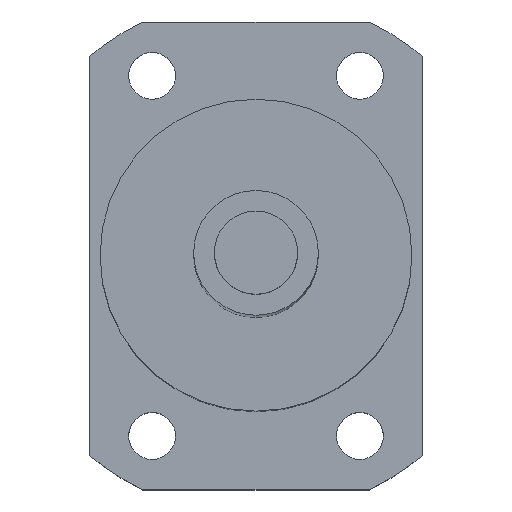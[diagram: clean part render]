
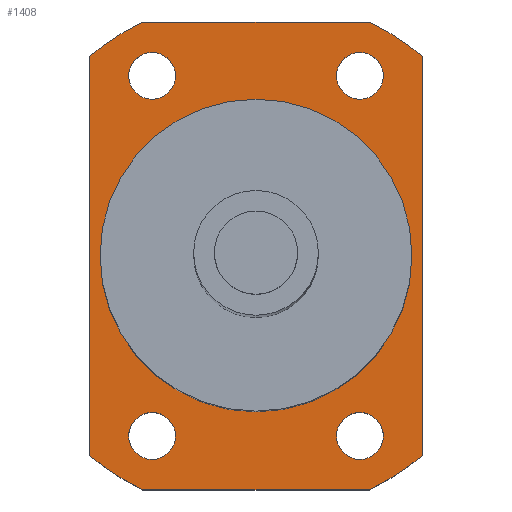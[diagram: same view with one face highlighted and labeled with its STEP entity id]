
A CAD part, top view. The second image highlights one B-rep face of the part: STEP entity #1408.
In plain terms, the highlighted planar face has unit normal (0, 0, 1).
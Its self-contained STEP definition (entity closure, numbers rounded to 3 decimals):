
#328=CARTESIAN_POINT('',(10.,17.321,200.));
#329=DIRECTION('',(0.,0.,-1.));
#330=DIRECTION('',(1.,0.,0.));
#331=AXIS2_PLACEMENT_3D('',#328,#329,#330);
#333=CARTESIAN_POINT('',(10.,17.321,200.));
#334=DIRECTION('',(0.,0.,-1.));
#335=DIRECTION('',(-1.,0.,0.));
#336=AXIS2_PLACEMENT_3D('',#333,#334,#335);
#338=CARTESIAN_POINT('',(-10.,17.321,200.));
#339=DIRECTION('',(0.,0.,-1.));
#340=DIRECTION('',(1.,0.,0.));
#341=AXIS2_PLACEMENT_3D('',#338,#339,#340);
#343=CARTESIAN_POINT('',(-10.,17.321,200.));
#344=DIRECTION('',(0.,0.,-1.));
#345=DIRECTION('',(-1.,0.,0.));
#346=AXIS2_PLACEMENT_3D('',#343,#344,#345);
#348=CARTESIAN_POINT('',(10.,-17.321,200.));
#349=DIRECTION('',(0.,0.,-1.));
#350=DIRECTION('',(1.,0.,0.));
#351=AXIS2_PLACEMENT_3D('',#348,#349,#350);
#353=CARTESIAN_POINT('',(10.,-17.321,200.));
#354=DIRECTION('',(0.,0.,-1.));
#355=DIRECTION('',(-1.,0.,0.));
#356=AXIS2_PLACEMENT_3D('',#353,#354,#355);
#358=CARTESIAN_POINT('',(-10.,-17.321,200.));
#359=DIRECTION('',(0.,0.,-1.));
#360=DIRECTION('',(1.,0.,0.));
#361=AXIS2_PLACEMENT_3D('',#358,#359,#360);
#363=CARTESIAN_POINT('',(-10.,-17.321,200.));
#364=DIRECTION('',(0.,0.,-1.));
#365=DIRECTION('',(-1.,0.,0.));
#366=AXIS2_PLACEMENT_3D('',#363,#364,#365);
#368=CARTESIAN_POINT('',(0.,0.,200.));
#369=DIRECTION('',(0.,0.,1.));
#370=DIRECTION('',(1.,0.,0.));
#371=AXIS2_PLACEMENT_3D('',#368,#369,#370);
#373=CARTESIAN_POINT('',(0.,0.,200.));
#374=DIRECTION('',(0.,0.,1.));
#375=DIRECTION('',(-1.,0.,0.));
#376=AXIS2_PLACEMENT_3D('',#373,#374,#375);
#378=DIRECTION('',(1.,0.,0.));
#379=VECTOR('',#378,21.794);
#380=CARTESIAN_POINT('',(-10.897,22.5,200.));
#381=LINE('',#380,#379);
#382=CARTESIAN_POINT('',(0.,0.,200.));
#383=DIRECTION('',(0.,0.,1.));
#384=DIRECTION('',(0.64,0.768,0.));
#385=AXIS2_PLACEMENT_3D('',#382,#383,#384);
#387=DIRECTION('',(0.,1.,0.));
#388=VECTOR('',#387,38.419);
#389=CARTESIAN_POINT('',(16.,-19.209,200.));
#390=LINE('',#389,#388);
#391=CARTESIAN_POINT('',(0.,0.,200.));
#392=DIRECTION('',(0.,0.,1.));
#393=DIRECTION('',(0.436,-0.9,0.));
#394=AXIS2_PLACEMENT_3D('',#391,#392,#393);
#396=DIRECTION('',(1.,0.,0.));
#397=VECTOR('',#396,21.794);
#398=CARTESIAN_POINT('',(-10.897,-22.5,200.));
#399=LINE('',#398,#397);
#400=CARTESIAN_POINT('',(0.,0.,200.));
#401=DIRECTION('',(0.,0.,1.));
#402=DIRECTION('',(-0.64,-0.768,0.));
#403=AXIS2_PLACEMENT_3D('',#400,#401,#402);
#405=DIRECTION('',(0.,-1.,0.));
#406=VECTOR('',#405,38.419);
#407=CARTESIAN_POINT('',(-16.,19.209,200.));
#408=LINE('',#407,#406);
#409=CARTESIAN_POINT('',(0.,0.,200.));
#410=DIRECTION('',(0.,0.,1.));
#411=DIRECTION('',(-0.436,0.9,0.));
#412=AXIS2_PLACEMENT_3D('',#409,#410,#411);
#721=CARTESIAN_POINT('',(12.25,17.321,200.));
#722=CARTESIAN_POINT('',(7.75,17.321,200.));
#723=VERTEX_POINT('',#721);
#724=VERTEX_POINT('',#722);
#725=CARTESIAN_POINT('',(-7.75,17.321,200.));
#726=CARTESIAN_POINT('',(-12.25,17.321,200.));
#727=VERTEX_POINT('',#725);
#728=VERTEX_POINT('',#726);
#729=CARTESIAN_POINT('',(12.25,-17.321,200.));
#730=CARTESIAN_POINT('',(7.75,-17.321,200.));
#731=VERTEX_POINT('',#729);
#732=VERTEX_POINT('',#730);
#733=CARTESIAN_POINT('',(-7.75,-17.321,200.));
#734=CARTESIAN_POINT('',(-12.25,-17.321,200.));
#735=VERTEX_POINT('',#733);
#736=VERTEX_POINT('',#734);
#737=CARTESIAN_POINT('',(-16.,19.209,200.));
#738=CARTESIAN_POINT('',(-16.,-19.209,200.));
#739=VERTEX_POINT('',#737);
#740=VERTEX_POINT('',#738);
#741=CARTESIAN_POINT('',(16.,-19.209,200.));
#742=CARTESIAN_POINT('',(16.,19.209,200.));
#743=VERTEX_POINT('',#741);
#744=VERTEX_POINT('',#742);
#753=CARTESIAN_POINT('',(15.,0.,200.));
#754=CARTESIAN_POINT('',(-15.,0.,200.));
#755=VERTEX_POINT('',#753);
#756=VERTEX_POINT('',#754);
#829=CARTESIAN_POINT('',(-10.897,22.5,200.));
#830=CARTESIAN_POINT('',(10.897,22.5,200.));
#831=VERTEX_POINT('',#829);
#832=VERTEX_POINT('',#830);
#833=CARTESIAN_POINT('',(-10.897,-22.5,200.));
#834=CARTESIAN_POINT('',(10.897,-22.5,200.));
#835=VERTEX_POINT('',#833);
#836=VERTEX_POINT('',#834);
#1357=CARTESIAN_POINT('',(0.,0.,200.));
#1358=DIRECTION('',(0.,0.,1.));
#1359=DIRECTION('',(1.,0.,0.));
#1360=AXIS2_PLACEMENT_3D('',#1357,#1358,#1359);
#1361=PLANE('',#1360);
#1363=ORIENTED_EDGE('',*,*,#1362,.T.);
#1365=ORIENTED_EDGE('',*,*,#1364,.F.);
#1367=ORIENTED_EDGE('',*,*,#1366,.F.);
#1369=ORIENTED_EDGE('',*,*,#1368,.F.);
#1371=ORIENTED_EDGE('',*,*,#1370,.F.);
#1373=ORIENTED_EDGE('',*,*,#1372,.F.);
#1375=ORIENTED_EDGE('',*,*,#1374,.F.);
#1377=ORIENTED_EDGE('',*,*,#1376,.F.);
#1378=EDGE_LOOP('',(#1363,#1365,#1367,#1369,#1371,#1373,#1375,#1377));
#1379=FACE_OUTER_BOUND('',#1378,.F.);
#1380=ORIENTED_EDGE('',*,*,#1337,.F.);
#1381=ORIENTED_EDGE('',*,*,#1351,.F.);
#1382=EDGE_LOOP('',(#1380,#1381));
#1383=FACE_BOUND('',#1382,.F.);
#1385=ORIENTED_EDGE('',*,*,#1384,.F.);
#1387=ORIENTED_EDGE('',*,*,#1386,.F.);
#1388=EDGE_LOOP('',(#1385,#1387));
#1389=FACE_BOUND('',#1388,.F.);
#1391=ORIENTED_EDGE('',*,*,#1390,.F.);
#1393=ORIENTED_EDGE('',*,*,#1392,.F.);
#1394=EDGE_LOOP('',(#1391,#1393));
#1395=FACE_BOUND('',#1394,.F.);
#1397=ORIENTED_EDGE('',*,*,#1396,.F.);
#1399=ORIENTED_EDGE('',*,*,#1398,.F.);
#1400=EDGE_LOOP('',(#1397,#1399));
#1401=FACE_BOUND('',#1400,.F.);
#1403=ORIENTED_EDGE('',*,*,#1402,.T.);
#1405=ORIENTED_EDGE('',*,*,#1404,.T.);
#1406=EDGE_LOOP('',(#1403,#1405));
#1407=FACE_BOUND('',#1406,.F.);
#1408=ADVANCED_FACE('',(#1379,#1383,#1389,#1395,#1401,#1407),#1361,.T.);
#332=CIRCLE('',#331,2.25);
#337=CIRCLE('',#336,2.25);
#342=CIRCLE('',#341,2.25);
#347=CIRCLE('',#346,2.25);
#352=CIRCLE('',#351,2.25);
#357=CIRCLE('',#356,2.25);
#362=CIRCLE('',#361,2.25);
#367=CIRCLE('',#366,2.25);
#372=CIRCLE('',#371,15.);
#377=CIRCLE('',#376,15.);
#386=CIRCLE('',#385,25.);
#395=CIRCLE('',#394,25.);
#404=CIRCLE('',#403,25.);
#413=CIRCLE('',#412,25.);
#1337=EDGE_CURVE('',#723,#724,#332,.T.);
#1351=EDGE_CURVE('',#724,#723,#337,.T.);
#1362=EDGE_CURVE('',#831,#832,#381,.T.);
#1364=EDGE_CURVE('',#744,#832,#386,.T.);
#1366=EDGE_CURVE('',#743,#744,#390,.T.);
#1368=EDGE_CURVE('',#836,#743,#395,.T.);
#1370=EDGE_CURVE('',#835,#836,#399,.T.);
#1372=EDGE_CURVE('',#740,#835,#404,.T.);
#1374=EDGE_CURVE('',#739,#740,#408,.T.);
#1376=EDGE_CURVE('',#831,#739,#413,.T.);
#1384=EDGE_CURVE('',#727,#728,#342,.T.);
#1386=EDGE_CURVE('',#728,#727,#347,.T.);
#1390=EDGE_CURVE('',#731,#732,#352,.T.);
#1392=EDGE_CURVE('',#732,#731,#357,.T.);
#1396=EDGE_CURVE('',#735,#736,#362,.T.);
#1398=EDGE_CURVE('',#736,#735,#367,.T.);
#1402=EDGE_CURVE('',#755,#756,#372,.T.);
#1404=EDGE_CURVE('',#756,#755,#377,.T.);
